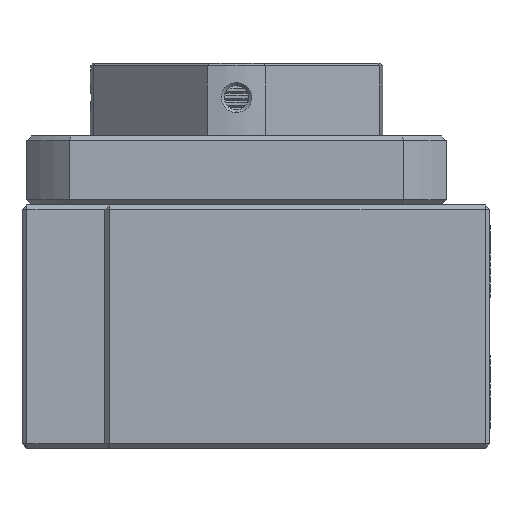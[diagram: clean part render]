
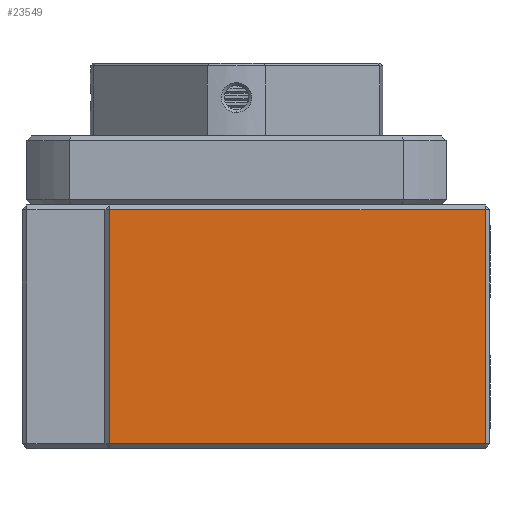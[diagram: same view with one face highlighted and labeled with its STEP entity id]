
A CAD part, left-side view. The second image highlights one B-rep face of the part: STEP entity #23549.
In plain terms, the highlighted planar face has unit normal (-1, 0, 0).
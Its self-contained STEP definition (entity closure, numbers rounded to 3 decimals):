
#18 = ORIENTED_EDGE ( 'NONE', *, *, #20, .T. ) ;
#19 = ORIENTED_EDGE ( 'NONE', *, *, #22, .T. ) ;
#20 = EDGE_CURVE ( 'NONE', #22497, #21, #23192, .T. ) ;
#21 = VERTEX_POINT ( 'NONE', #23309 ) ;
#22 = EDGE_CURVE ( 'NONE', #21, #22784, #23305, .T. ) ;
#23 = EDGE_CURVE ( 'NONE', #22855, #22497, #23295, .T. ) ;
#26 = ORIENTED_EDGE ( 'NONE', *, *, #23, .T. ) ;
#8469 = CARTESIAN_POINT ( 'NONE',  ( -70., 1., 24. ) ) ;
#10662 = CARTESIAN_POINT ( 'NONE',  ( -70., 78., -24. ) ) ;
#14967 = CARTESIAN_POINT ( 'NONE',  ( -70., 1., -24. ) ) ;
#21828 = DIRECTION ( 'NONE',  ( 0., -1., 0. ) ) ;
#21830 = VECTOR ( 'NONE', #21828, 1000. ) ;
#21832 = CARTESIAN_POINT ( 'NONE',  ( -70., 79., -24. ) ) ;
#21834 = LINE ( 'NONE', #21832, #21830 ) ;
#21998 = PLANE ( 'NONE',  #22002 ) ;
#22002 = AXIS2_PLACEMENT_3D ( 'NONE', #22145, #22137, #22135 ) ;
#22003 = FACE_OUTER_BOUND ( 'NONE', #23344, .T. ) ;
#22135 = DIRECTION ( 'NONE',  ( 0., 0., -1. ) ) ;
#22137 = DIRECTION ( 'NONE',  ( 1., 0., 0. ) ) ;
#22145 = CARTESIAN_POINT ( 'NONE',  ( -70., 79., 25. ) ) ;
#22497 = VERTEX_POINT ( 'NONE', #8469 ) ;
#22784 = VERTEX_POINT ( 'NONE', #10662 ) ;
#22855 = VERTEX_POINT ( 'NONE', #14967 ) ;
#23126 = EDGE_CURVE ( 'NONE', #22784, #22855, #21834, .T. ) ;
#23187 = DIRECTION ( 'NONE',  ( 0., 1., 0. ) ) ;
#23189 = VECTOR ( 'NONE', #23187, 1000. ) ;
#23190 = CARTESIAN_POINT ( 'NONE',  ( -70., 79., 24. ) ) ;
#23192 = LINE ( 'NONE', #23190, #23189 ) ;
#23290 = DIRECTION ( 'NONE',  ( 0., 0., 1. ) ) ;
#23291 = VECTOR ( 'NONE', #23290, 1000. ) ;
#23293 = CARTESIAN_POINT ( 'NONE',  ( -70., 1., 25. ) ) ;
#23295 = LINE ( 'NONE', #23293, #23291 ) ;
#23300 = DIRECTION ( 'NONE',  ( 0., 0., -1. ) ) ;
#23302 = VECTOR ( 'NONE', #23300, 1000. ) ;
#23303 = CARTESIAN_POINT ( 'NONE',  ( -70., 78., 25. ) ) ;
#23305 = LINE ( 'NONE', #23303, #23302 ) ;
#23309 = CARTESIAN_POINT ( 'NONE',  ( -70., 78., 24. ) ) ;
#23344 = EDGE_LOOP ( 'NONE', ( #23409, #26, #18, #19 ) ) ;
#23409 = ORIENTED_EDGE ( 'NONE', *, *, #23126, .T. ) ;
#23549 = ADVANCED_FACE ( 'NONE', ( #22003 ), #21998, .F. ) ;
